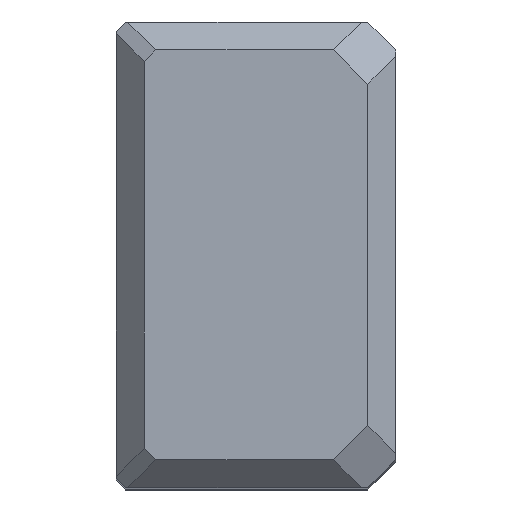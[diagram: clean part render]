
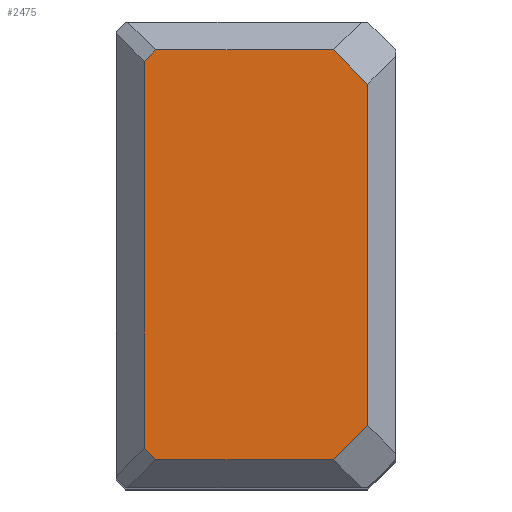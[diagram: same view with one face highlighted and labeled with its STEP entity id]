
A CAD part, top view. The second image highlights one B-rep face of the part: STEP entity #2475.
In plain terms, the highlighted planar face has unit normal (0, 0, 1).
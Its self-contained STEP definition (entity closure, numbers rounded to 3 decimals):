
#95=VERTEX_POINT(' ',#96);
#96=CARTESIAN_POINT('',(-3.,-18.326,0.));
#97=VERTEX_POINT(' ',#98);
#98=CARTESIAN_POINT('',(-6.674,-22.,0.));
#127=VERTEX_POINT(' ',#128);
#128=CARTESIAN_POINT('',(-3.,18.326,0.));
#135=VERTEX_POINT(' ',#136);
#136=CARTESIAN_POINT('',(-6.674,22.,0.));
#173=VERTEX_POINT(' ',#174);
#174=CARTESIAN_POINT('',(-25.775,-22.,0.));
#181=VERTEX_POINT(' ',#182);
#182=CARTESIAN_POINT('',(-27.,-20.775,0.));
#199=VERTEX_POINT(' ',#200);
#200=CARTESIAN_POINT('',(-27.,20.775,0.));
#203=VERTEX_POINT(' ',#204);
#204=CARTESIAN_POINT('',(-25.775,22.,0.));
#456=LINE('',#457,#458);
#457=CARTESIAN_POINT('',(7.663,-7.663,0.));
#458=VECTOR('',#459,1.);
#459=DIRECTION('',(0.707,0.707,0.));
#460=EDGE_CURVE(' ',#95,#97,#456,.F.);
#586=LINE('',#587,#588);
#587=CARTESIAN_POINT('',(-3.,-25.12,0.));
#588=VECTOR('',#589,1.);
#589=DIRECTION('',(0.,1.,0.));
#590=EDGE_CURVE(' ',#95,#127,#586,.T.);
#611=LINE('',#612,#613);
#612=CARTESIAN_POINT('',(7.663,7.663,0.));
#613=VECTOR('',#614,1.);
#614=DIRECTION('',(-0.707,0.707,0.));
#615=EDGE_CURVE(' ',#135,#127,#611,.F.);
#800=LINE('',#801,#802);
#801=CARTESIAN_POINT('',(-30.12,-22.,0.));
#802=VECTOR('',#803,1.);
#803=DIRECTION('',(1.,0.,0.));
#804=EDGE_CURVE(' ',#173,#97,#800,.T.);
#815=LINE('',#816,#817);
#816=CARTESIAN_POINT('',(-23.888,-23.888,0.));
#817=VECTOR('',#818,1.);
#818=DIRECTION('',(0.707,-0.707,0.));
#819=EDGE_CURVE(' ',#173,#181,#815,.F.);
#907=LINE('',#908,#909);
#908=CARTESIAN_POINT('',(-27.,-25.12,0.));
#909=VECTOR('',#910,1.);
#910=DIRECTION('',(0.,1.,0.));
#911=EDGE_CURVE(' ',#181,#199,#907,.T.);
#912=LINE('',#913,#914);
#913=CARTESIAN_POINT('',(-23.888,23.888,0.));
#914=VECTOR('',#915,1.);
#915=DIRECTION('',(-0.707,-0.707,0.));
#916=EDGE_CURVE(' ',#199,#203,#912,.F.);
#917=LINE('',#918,#919);
#918=CARTESIAN_POINT('',(-30.12,22.,0.));
#919=VECTOR('',#920,1.);
#920=DIRECTION('',(1.,0.,0.));
#921=EDGE_CURVE(' ',#135,#203,#917,.F.);
#2460=ORIENTED_EDGE('',*,*,#916,.F.);
#2461=ORIENTED_EDGE('',*,*,#911,.F.);
#2462=ORIENTED_EDGE('',*,*,#819,.F.);
#2463=ORIENTED_EDGE('',*,*,#804,.T.);
#2464=ORIENTED_EDGE('',*,*,#460,.F.);
#2465=ORIENTED_EDGE('',*,*,#590,.T.);
#2466=ORIENTED_EDGE('',*,*,#615,.F.);
#2467=ORIENTED_EDGE('',*,*,#921,.T.);
#2468=EDGE_LOOP('',(#2460,#2461,#2462,#2463,#2464,#2465,#2466,#2467));
#2469=FACE_OUTER_BOUND('',#2468,.T.);
#2470=PLANE('',#2471);
#2471=AXIS2_PLACEMENT_3D('',#2472,#2473,#2474);
#2472=CARTESIAN_POINT('',(-27.,0.,0.));
#2473=DIRECTION('',(0.,0.,1.));
#2474=DIRECTION('',(1.,0.,0.));
#2475=ADVANCED_FACE('',(#2469),#2470,.T.);
